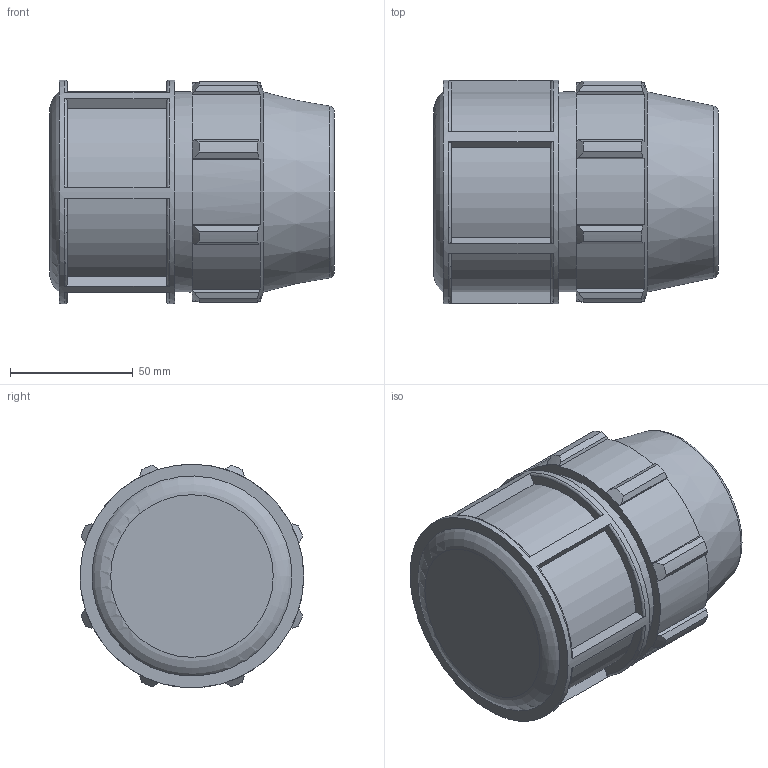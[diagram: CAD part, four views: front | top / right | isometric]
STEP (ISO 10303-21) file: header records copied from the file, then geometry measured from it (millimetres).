
FILE_DESCRIPTION(/* description */ ('PLASSON END PLUG 1 1/2'''''),/* implementation_level */ '2;1');
FILE_NAME(/* name */ 'C:\Dropbox\KIMPROJECTS-Inventor 2019\99-16-3568-Processing Inch\ASTM Compression 2021\0712M0\0712M0150.ipt.stp',/* time_stamp */ '2021-08-26T12:33:17+03:00',/* author */ ('Кирилл'),/* organization */ (''),/* preprocessor_version */ 'ST-DEVELOPER v17.2',/* originating_system */ 'Autodesk Inventor 2019',/* authorisation */ '');
FILE_SCHEMA (('AUTOMOTIVE_DESIGN { 1 0 10303 214 3 1 1 }'));
Length unit declared in the file: inch
Products named in the file (1): 0712M0150
Bounding box: 116.08 x 91.17 x 91.21 mm (x, y, z)
Volume: 429360.2 mm3; surface area: 65397.3 mm2
Topology: 1 solids, 1 shells, 115 faces, 317 edges, 215 vertices
Faces by surface type: plane 63, cylinder 25, torus 15, cone 12
Full cylindrical faces by diameter (mm): 48.1 x1, 81.61 x1, 91.211 x1
Entity records: 4019 total; most frequent: CARTESIAN_POINT 928, ORIENTED_EDGE 634, DIRECTION 603, EDGE_CURVE 317, AXIS2_PLACEMENT_3D 226, VERTEX_POINT 215, LINE 151, VECTOR 151
